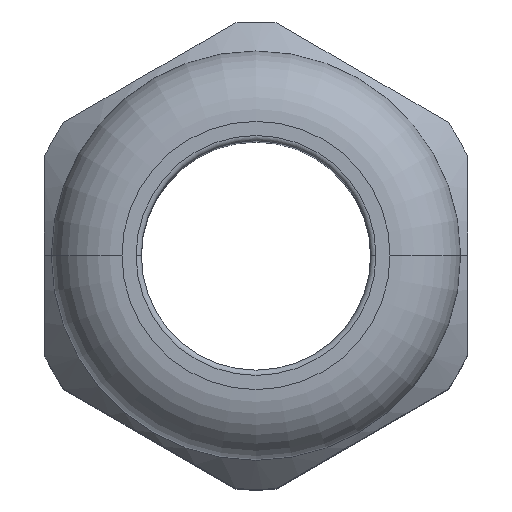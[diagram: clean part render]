
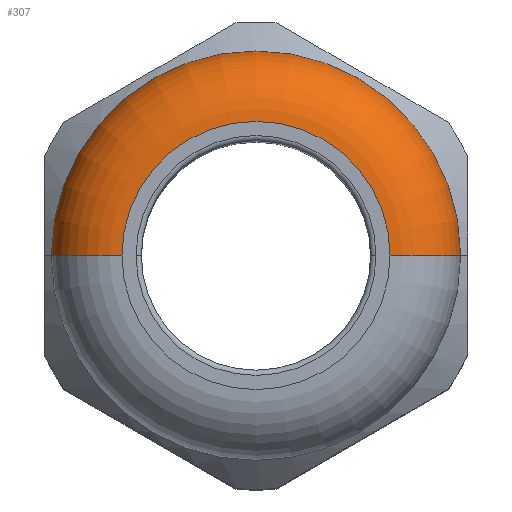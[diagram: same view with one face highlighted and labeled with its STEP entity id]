
A CAD part, top view. The second image highlights one B-rep face of the part: STEP entity #307.
In plain terms, the highlighted toroidal (fillet/blend) face has major radius 7.6 mm and minor radius 4 mm.
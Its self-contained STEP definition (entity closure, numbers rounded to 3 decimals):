
#306 = VERTEX_POINT ( 'NONE', #2280 ) ;
#307 = ADVANCED_FACE ( 'NONE', ( #2252 ), #2276, .T. ) ;
#322 = EDGE_CURVE ( 'NONE', #361, #323, #2348, .T. ) ;
#323 = VERTEX_POINT ( 'NONE', #2362 ) ;
#324 = ORIENTED_EDGE ( 'NONE', *, *, #325, .T. ) ;
#325 = EDGE_CURVE ( 'NONE', #323, #306, #2330, .T. ) ;
#358 = ORIENTED_EDGE ( 'NONE', *, *, #359, .F. ) ;
#359 = EDGE_CURVE ( 'NONE', #360, #306, #2309, .T. ) ;
#360 = VERTEX_POINT ( 'NONE', #2375 ) ;
#361 = VERTEX_POINT ( 'NONE', #2374 ) ;
#362 = ORIENTED_EDGE ( 'NONE', *, *, #322, .T. ) ;
#375 = EDGE_LOOP ( 'NONE', ( #362, #324, #358, #391 ) ) ;
#391 = ORIENTED_EDGE ( 'NONE', *, *, #399, .F. ) ;
#399 = EDGE_CURVE ( 'NONE', #361, #360, #2477, .T. ) ;
#2251 = CARTESIAN_POINT ( 'NONE',  ( 0., 0., 39. ) ) ;
#2252 = FACE_OUTER_BOUND ( 'NONE', #375, .T. ) ;
#2273 = DIRECTION ( 'NONE',  ( -1., 0., 0. ) ) ;
#2274 = DIRECTION ( 'NONE',  ( 0., 0., -1. ) ) ;
#2275 = AXIS2_PLACEMENT_3D ( 'NONE', #2251, #2274, #2273 ) ;
#2276 = TOROIDAL_SURFACE ( 'NONE', #2275, 7.6, 4. ) ;
#2280 = CARTESIAN_POINT ( 'NONE',  ( 11.6, 0., 39. ) ) ;
#2286 = CARTESIAN_POINT ( 'NONE',  ( 0., 0., 39. ) ) ;
#2291 = DIRECTION ( 'NONE',  ( 0., 0., -1. ) ) ;
#2303 = DIRECTION ( 'NONE',  ( -1., 0., 0. ) ) ;
#2305 = AXIS2_PLACEMENT_3D ( 'NONE', #2286, #2291, #2303 ) ;
#2309 = CIRCLE ( 'NONE', #2305, 11.6 ) ;
#2324 = DIRECTION ( 'NONE',  ( -1., 0., 0. ) ) ;
#2325 = DIRECTION ( 'NONE',  ( 0., 0., -1. ) ) ;
#2326 = CARTESIAN_POINT ( 'NONE',  ( 0., 0., 43. ) ) ;
#2327 = DIRECTION ( 'NONE',  ( -1., 0., 0. ) ) ;
#2328 = DIRECTION ( 'NONE',  ( 0., 1., 0. ) ) ;
#2329 = AXIS2_PLACEMENT_3D ( 'NONE', #2384, #2328, #2327 ) ;
#2330 = CIRCLE ( 'NONE', #2329, 4. ) ;
#2348 = CIRCLE ( 'NONE', #2349, 7.6 ) ;
#2349 = AXIS2_PLACEMENT_3D ( 'NONE', #2326, #2325, #2324 ) ;
#2362 = CARTESIAN_POINT ( 'NONE',  ( 7.6, 0., 43. ) ) ;
#2374 = CARTESIAN_POINT ( 'NONE',  ( -7.6, 0., 43. ) ) ;
#2375 = CARTESIAN_POINT ( 'NONE',  ( -11.6, 0., 39. ) ) ;
#2384 = CARTESIAN_POINT ( 'NONE',  ( 7.6, 0., 39. ) ) ;
#2473 = DIRECTION ( 'NONE',  ( 0., 0., -1. ) ) ;
#2474 = DIRECTION ( 'NONE',  ( 0., -1., 0. ) ) ;
#2475 = CARTESIAN_POINT ( 'NONE',  ( -7.6, 0., 39. ) ) ;
#2476 = AXIS2_PLACEMENT_3D ( 'NONE', #2475, #2474, #2473 ) ;
#2477 = CIRCLE ( 'NONE', #2476, 4. ) ;
